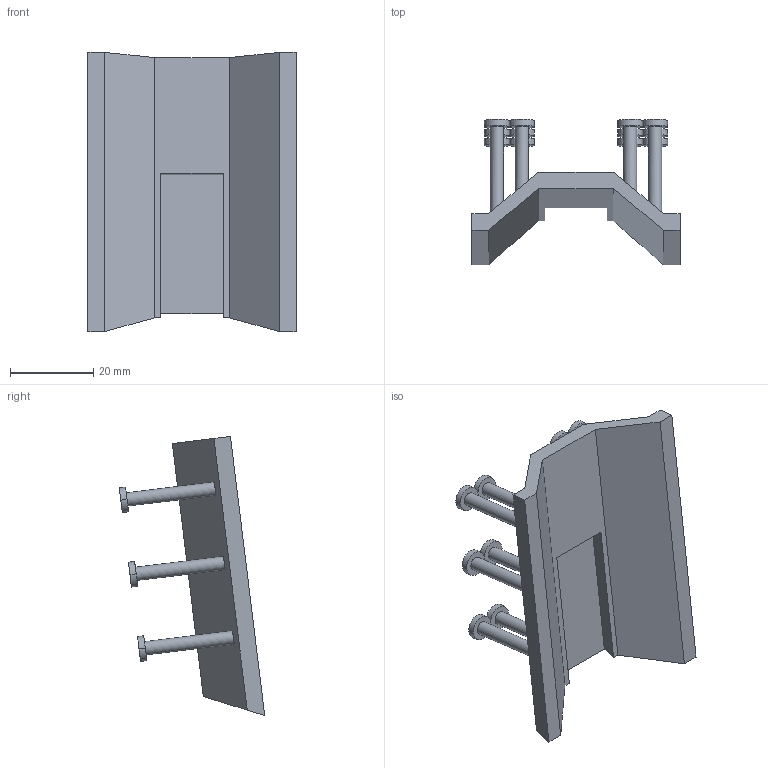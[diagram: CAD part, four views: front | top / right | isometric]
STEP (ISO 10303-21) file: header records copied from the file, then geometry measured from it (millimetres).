
FILE_DESCRIPTION(('Open CASCADE Model'),'2;1');
FILE_NAME('Open CASCADE Shape Model','2026-10-16T05:25:09',('Author'),( 'Open CASCADE'),'Open CASCADE STEP processor 7.9','Open CASCADE 7.9' ,'Unknown');
FILE_SCHEMA(('AUTOMOTIVE_DESIGN { 1 0 10303 214 1 1 1 1 }'));
Length unit declared in the file: millimetre
Products named in the file (1): Open CASCADE STEP translator 7.9 33
Bounding box: 50 x 34.93 x 67.05 mm (x, y, z)
Volume: 13505.7 mm3; surface area: 11507.9 mm2
Topology: 1 solids, 1 shells, 84 faces, 168 edges, 104 vertices
Faces by surface type: plane 54, cylinder 30
Full cylindrical faces by diameter (mm): 3.2 x12, 6 x6
Entity records: 4768 total; most frequent: CARTESIAN_POINT 1311, DIRECTION 668, ORIENTED_EDGE 348, PCURVE 336, DEFINITIONAL_REPRESENTATION 336, LINE 318, VECTOR 318, AXIS2_PLACEMENT_3D 169
